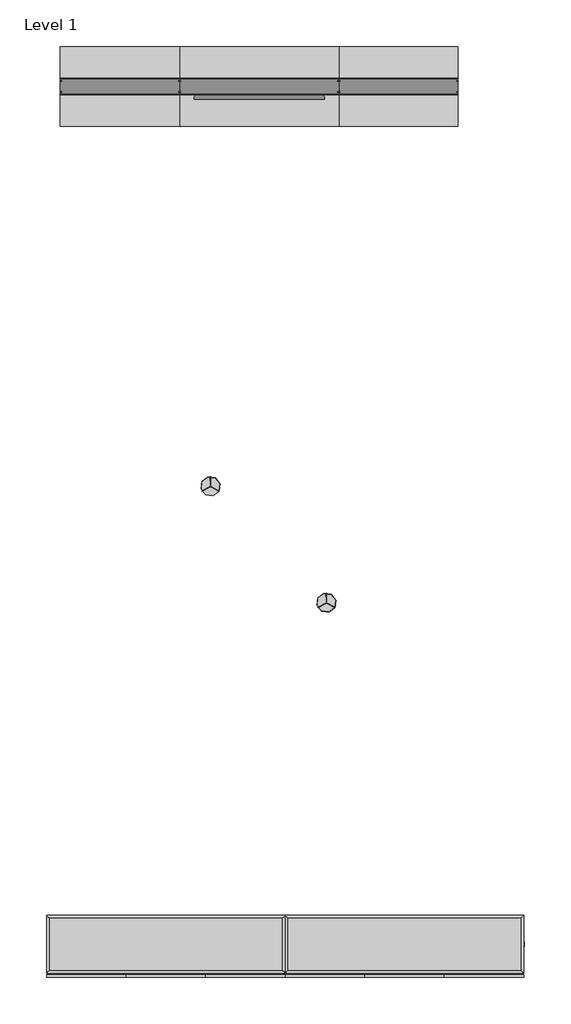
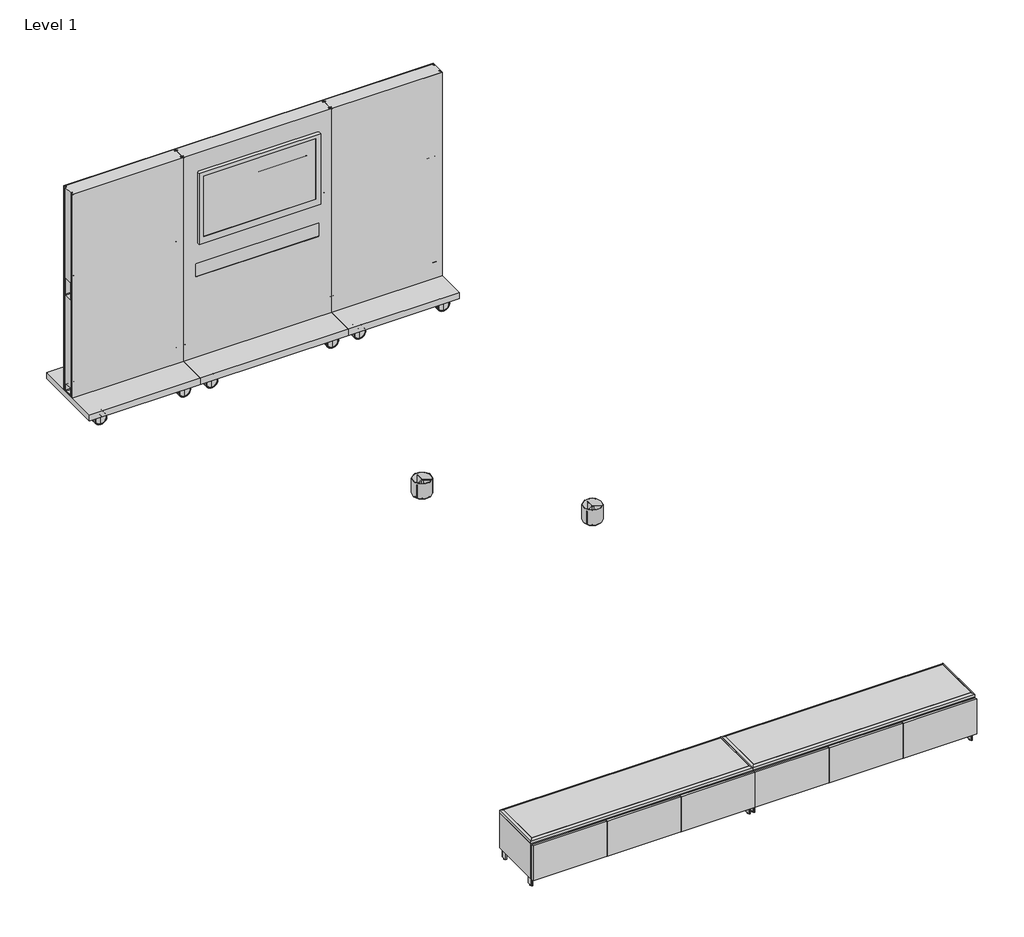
# One storey, incomplete: 7 furniture elements.
"""IFC4 building model written with IfcOpenShell, lengths in millimetres."""

from ifc_helpers import new_model, si_unit, origin, place, context, project, spatial, transform, mapped, element, save
from components import furniture_46024d2c, furniture_0eeaa3e6, door_72w_metal_base_94e5ba46, steelcase_coalesse_sw_1_table_power_pod_power_pod_04608cef, whiteboard_36w_4263d8d1, whiteboard_36w_019901e7

model = new_model("IFC4")

# Units and contexts
model_context = context("Model", 3, world=origin())
ifc_project = project(units=[si_unit("LENGTHUNIT", "METRE", prefix="MILLI")], contexts=[model_context])

# Site, building, storey
site = spatial("IfcSite", under=ifc_project)
building = spatial("IfcBuilding", under=site)
storey = spatial("IfcBuildingStorey", under=building, Name="Level 1", Elevation=0.0)

# Furniture
placement = place(None, origin())
furniture_shape = furniture_46024d2c(model_context)
furniture_2_shape = furniture_0eeaa3e6(model_context)
element("IfcFurniture", 1, ObjectType="Steelcase Coalesse - Exponents - Storage - Mobile Display Board : Mediaboard", at=placement, inside=storey, context=model_context, shape_type="MappedRepresentation", body=[
    mapped(furniture_shape, transform((-38897.1994524, -153636.1127264, 0.0), x_axis=(1.0, 0.0, 0.0), y_axis=(0.0, 1.0, 0.0), z_axis=(0.0, 0.0, 1.0))),
    mapped(furniture_2_shape, transform((-38897.1994524, -153636.1127264, 0.0), x_axis=(1.0, 0.0, 0.0), y_axis=(0.0, 1.0, 0.0), z_axis=(0.0, 0.0, 1.0))),
])
door_72w_metal_base_shape = door_72w_metal_base_94e5ba46(model_context)
element("IfcFurniture", 2, ObjectType="Steelcase Coalesse - Exponents - Seating - Bench : Door - 72W - Metal Base", at=placement, inside=storey, context=model_context, shape_type="MappedRepresentation", body=[
    mapped(door_72w_metal_base_shape, transform((-39917.8051317, -160269.0728766, 0.0), x_axis=(1.0, 0.0, 0.0), y_axis=(0.0, 1.0, 0.0), z_axis=(0.0, 0.0, 1.0))),
])
element("IfcFurniture", 3, ObjectType="Steelcase Coalesse - Exponents - Seating - Bench : Door - 72W - Metal Base", at=placement, inside=storey, context=model_context, shape_type="MappedRepresentation", body=[
    mapped(door_72w_metal_base_shape, transform((-38089.0051317, -160269.0728766, 0.0), x_axis=(1.0, 0.0, 0.0), y_axis=(0.0, 1.0, 0.0), z_axis=(0.0, 0.0, 1.0))),
])
steelcase_coalesse_sw_1_table_power_pod_power_pod_shape = steelcase_coalesse_sw_1_table_power_pod_power_pod_04608cef(model_context)
element("IfcFurniture", 4, ObjectType="Steelcase Coalesse - SW_1 - Table - Power Pod : Power Pod", at=placement, inside=storey, context=model_context, shape_type="MappedRepresentation", body=[
    mapped(steelcase_coalesse_sw_1_table_power_pod_power_pod_shape, transform((-37772.5608224, -157419.0203162, 725.2208), x_axis=(0.8660254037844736, -0.49999999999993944, 0.0), y_axis=(0.49999999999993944, 0.8660254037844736, 0.0), z_axis=(0.0, 0.0, 1.0))),
])
element("IfcFurniture", 5, ObjectType="Steelcase Coalesse - SW_1 - Table - Power Pod : Power Pod", at=placement, inside=storey, context=model_context, shape_type="MappedRepresentation", body=[
    mapped(steelcase_coalesse_sw_1_table_power_pod_power_pod_shape, transform((-38660.9305315, -156527.6140621, 725.2208), x_axis=(0.8660254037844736, -0.49999999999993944, 0.0), y_axis=(0.49999999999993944, 0.8660254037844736, 0.0), z_axis=(0.0, 0.0, 1.0))),
])
whiteboard_36w_shape = whiteboard_36w_4263d8d1(model_context)
whiteboard_36w_2_shape = whiteboard_36w_019901e7(model_context)
element("IfcFurniture", 6, ObjectType="Steelcase Coalesse - Exponents - Storage - Mobile Display Board : Whiteboard - 36W", at=placement, inside=storey, context=model_context, shape_type="MappedRepresentation", body=[
    mapped(whiteboard_36w_shape, transform((-39811.5994524, -153636.1127264, 0.0), x_axis=(1.0, 0.0, 0.0), y_axis=(0.0, 1.0, 0.0), z_axis=(0.0, 0.0, 1.0))),
    mapped(whiteboard_36w_2_shape, transform((-39811.5994524, -153636.1127264, 0.0), x_axis=(1.0, 0.0, 0.0), y_axis=(0.0, 1.0, 0.0), z_axis=(0.0, 0.0, 1.0))),
])
element("IfcFurniture", 7, ObjectType="Steelcase Coalesse - Exponents - Storage - Mobile Display Board : Whiteboard - 36W", at=placement, inside=storey, context=model_context, shape_type="MappedRepresentation", body=[
    mapped(whiteboard_36w_shape, transform((-37677.9994524, -153636.1127264, 0.0), x_axis=(1.0, 0.0, 0.0), y_axis=(0.0, 1.0, 0.0), z_axis=(0.0, 0.0, 1.0))),
    mapped(whiteboard_36w_2_shape, transform((-37677.9994524, -153636.1127264, 0.0), x_axis=(1.0, 0.0, 0.0), y_axis=(0.0, 1.0, 0.0), z_axis=(0.0, 0.0, 1.0))),
])

save(model, "model.ifc")
